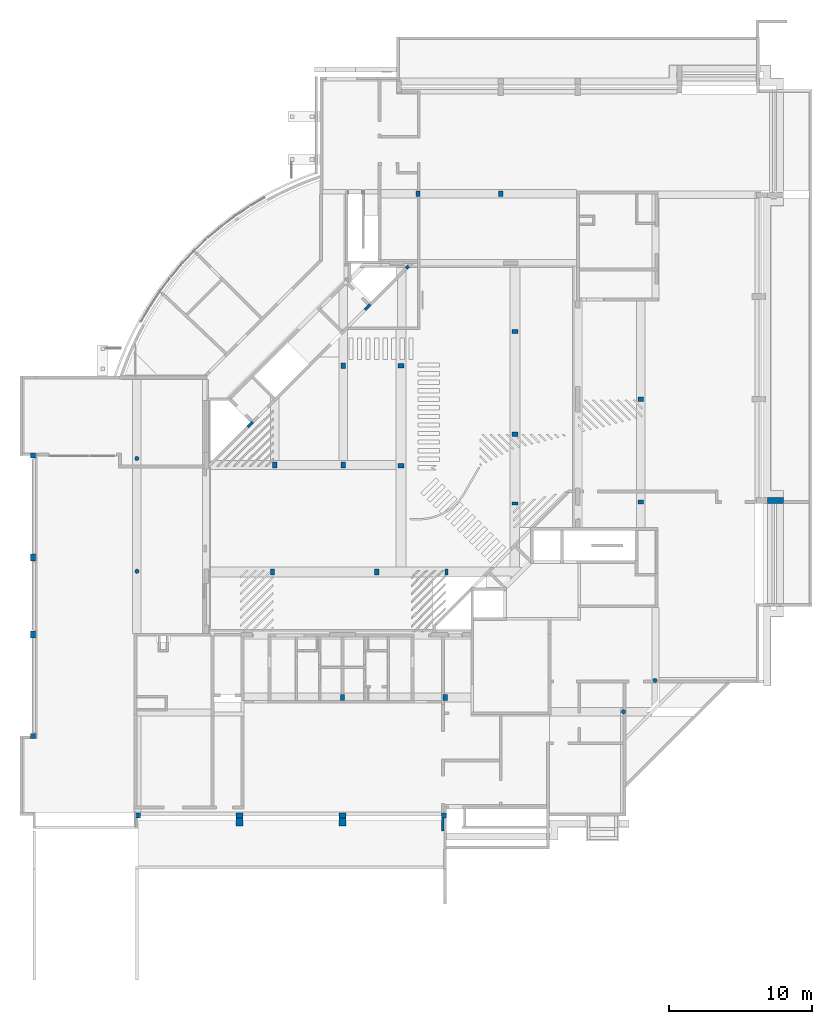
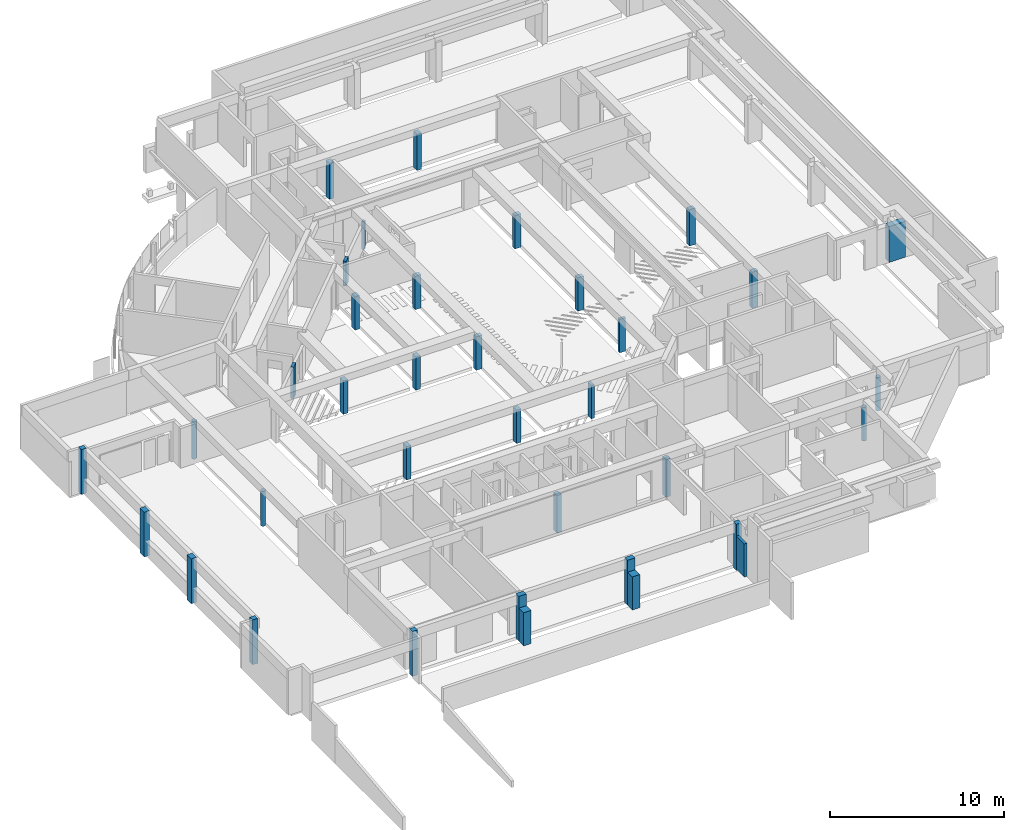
# One storey, part 1 of 22: 36 columns.
"""IFC4X3_ADD2 building model written with IfcOpenShell, lengths in millimetres."""

from ifc_helpers import new_model, si_unit, direction, frame, frame_2d, origin_with_axes, origin_2d_with_axis, place, context, subcontext, project, spatial, rectangle, circle, extrude, source, transform, mapped, material, type_object, type_shapes, element, save


model = new_model("IFC4X3_ADD2")

# Units and contexts
model_context = context("Model", 3, precision=1e-05, world=origin_with_axes(), true_north=direction((0.0, 1.0)))
body_context = subcontext(model_context, "Body", "Model", "MODEL_VIEW")
ifc_project = project(units=[si_unit("LENGTHUNIT", "METRE", prefix="MILLI"), si_unit("AREAUNIT", "SQUARE_METRE"), si_unit("VOLUMEUNIT", "CUBIC_METRE"), si_unit("PLANEANGLEUNIT", "RADIAN"), si_unit("TIMEUNIT", "SECOND"), si_unit("MASSUNIT", "GRAM")], contexts=[model_context])

# Site, building, storey
site_placement = place(None, origin_with_axes())
site = spatial("IfcSite", under=ifc_project, at=site_placement, Name="Site", CompositionType="ELEMENT")
building_placement = place(site_placement, origin_with_axes())
building = spatial("IfcBuilding", under=site, at=building_placement, Name="IFC Building Story")
storey_placement = place(building_placement, frame((0.0, 0.0, -3240.0), z_axis=(0.0, 0.0, 1.0), x_axis=(1.0, 0.0, 0.0)))
storey = spatial("IfcBuildingStorey", under=building, at=storey_placement, Name="K10", Elevation=-3240.0)

# Columns
ifc_material_1 = material(Name="BB_Beton_Bestaand")
column_type_1 = type_object("IfcColumnType", Name="BB_XX_Kolom_ rechthoekig_ center-center_GTL_300 mm x 400 mm", PredefinedType="NOTDEFINED")
shared_shape_1 = source(origin_with_axes(), body_context, "Body", "SweptSolid", [
    extrude(rectangle(XDim=400.0, YDim=300.0, at=frame_2d((0.0, 0.0), x_axis=(0.0, 1.0))), frame((-21900.0, 8200.0, -3340.0), z_axis=(0.0, 0.0, 1.0), x_axis=(1.0, 0.0, 0.0)), (0.0, 0.0, 1.0), 2640.0),
])
type_shapes(column_type_1, [shared_shape_1])
column_1_placement = place(storey_placement, frame((0.0, 0.0, 3240.0), z_axis=(0.0, 0.0, 1.0), x_axis=(1.0, 0.0, 0.0)))
element("IfcColumn", 1, at=column_1_placement, inside=storey, type_object=column_type_1, material=ifc_material_1, Name="BB_XX_Kolom, rechthoekig, center-center_GTL:300 mm x 400 mm", ObjectType="300 mm x 400 mm", PredefinedType="COLUMN", context=body_context, shape_type="MappedRepresentation", body=[
    mapped(shared_shape_1, transform((0.0, 0.0, 0.0))),
])
column_type_2 = type_object("IfcColumnType", Name="BB_XX_Kolom_ rechthoekig_ center-center_GTL_300 mm x 400 mm1", PredefinedType="NOTDEFINED")
shared_shape_2 = source(origin_with_axes(), body_context, "Body", "SweptSolid", [
    extrude(rectangle(XDim=400.0, YDim=300.0, at=frame_2d((0.0, 0.0), x_axis=(0.0, 1.0))), frame((0.0, 0.0, -3340.0), z_axis=(0.0, 0.0, 1.0), x_axis=(1.0, 0.0, 0.0)), (0.0, 0.0, 1.0), 2640.0),
])
type_shapes(column_type_2, [shared_shape_2])
column_2_placement = place(storey_placement, frame((-29100.0, 8200.0, 3240.0), z_axis=(0.0, 0.0, 1.0), x_axis=(1.0, 0.0, 0.0)))
element("IfcColumn", 2, at=column_2_placement, inside=storey, type_object=column_type_2, material=ifc_material_1, Name="BB_XX_Kolom, rechthoekig, center-center_GTL:300 mm x 400 mm", ObjectType="300 mm x 400 mm", PredefinedType="COLUMN", context=body_context, shape_type="MappedRepresentation", body=[
    mapped(shared_shape_2, transform((0.0, 0.0, 0.0))),
])
column_type_3 = type_object("IfcColumnType", Name="BB_XX_Kolom_ rechthoekig_ center-center_GTL_300 mm x 400 mm3", PredefinedType="NOTDEFINED")
shared_shape_3 = source(origin_with_axes(), body_context, "Body", "SweptSolid", [
    extrude(rectangle(XDim=400.0, YDim=300.0, at=frame_2d((0.0, 0.0), x_axis=(0.0, 1.0))), frame((0.0, 0.0, -3240.0), z_axis=(0.0, 0.0, 1.0), x_axis=(1.0, 0.0, 0.0)), (0.0, 0.0, 1.0), 2340.0),
])
type_shapes(column_type_3, [shared_shape_3])
for number, where, z_axis, x_axis in (
    (3, (-34000.0, 17000.0, 3240.0), (0.0, 0.0, 1.0), (1.0, 0.0, 0.0)),
    (4, (-26700.0, 17000.0, 3240.0), (0.0, 0.0, 1.0), (1.0, 0.0, 0.0)),
    (5, (-29050.0, 24500.0, 3240.0), (0.0, 0.0, 1.0), (1.0, 0.0, 0.0)),
    (6, (-33850.0, 24500.0, 3240.0), (0.0, 0.0, 1.0), (1.0, 0.0, 0.0)),
    (7, (-25000.0, 24450.0, 3240.0), (0.0, 0.0, 1.0), (0.0, 1.0, 0.0)),
    (8, (-25000.0, 31450.0, 3240.0), (0.0, 0.0, 1.0), (0.0, 1.0, 0.0)),
    (9, (-17000.0, 26650.0, 3240.0), (0.0, 0.0, 1.0), (0.0, 1.0, 0.0)),
    (10, (-17000.0, 33850.0, 3240.0), (0.0, 0.0, 1.0), (0.0, 1.0, 0.0)),
    (11, (-29050.0, 31450.0, 3240.0), (0.0, 0.0, 1.0), (-1.0, 0.0, 0.0)),
):
    element("IfcColumn", number, at=place(storey_placement, frame(where, z_axis=z_axis, x_axis=x_axis)), inside=storey, type_object=column_type_3, material=ifc_material_1, Name="BB_XX_Kolom, rechthoekig, center-center_GTL:300 mm x 400 mm", ObjectType="300 mm x 400 mm", PredefinedType="COLUMN", context=body_context, shape_type="MappedRepresentation", body=[
        mapped(shared_shape_3, transform((0.0, 0.0, 0.0))),
    ])
column_type_4 = type_object("IfcColumnType", Name="BB_XX_Kolom_ rechthoekig_ center-center_GTL_300 mm x 400 mm5", PredefinedType="NOTDEFINED")
shared_shape_4 = source(origin_with_axes(), body_context, "Body", "SweptSolid", [
    extrude(rectangle(XDim=400.0, YDim=300.0, at=frame_2d((0.0, 0.0), x_axis=(0.0, 1.0))), frame((0.0, 0.0, -3240.0), z_axis=(0.0, 0.0, 1.0), x_axis=(1.0, 0.0, 0.0)), (0.0, 0.0, 1.0), 2540.0),
])
type_shapes(column_type_4, [shared_shape_4])
for number, where, z_axis, x_axis in (
    (12, (-8200.0, 29100.0, 3240.0), (0.0, 0.0, 1.0), (0.0, 1.0, 0.0)),
    (13, (-18000.0, 43500.0, 3240.0), (0.0, 0.0, 1.0), (-1.0, 0.0, 0.0)),
    (14, (-23800.0, 43500.0, 3240.0), (0.0, 0.0, 1.0), (-1.0, 0.0, 0.0)),
    (15, (-8200.0, 21900.0, 3240.0), (0.0, 0.0, 1.0), (0.0, 1.0, 0.0)),
):
    element("IfcColumn", number, at=place(storey_placement, frame(where, z_axis=z_axis, x_axis=x_axis)), inside=storey, type_object=column_type_4, material=ifc_material_1, Name="BB_XX_Kolom, rechthoekig, center-center_GTL:300 mm x 400 mm", ObjectType="300 mm x 400 mm", PredefinedType="COLUMN", context=body_context, shape_type="MappedRepresentation", body=[
        mapped(shared_shape_4, transform((0.0, 0.0, 0.0))),
    ])
column_type_5 = type_object("IfcColumnType", Name="BB_XX_Kolom_ rechthoekig_ center-center_GTL_340 mm x 340 mm7", PredefinedType="NOTDEFINED")
shared_shape_5 = source(origin_with_axes(), body_context, "Body", "SweptSolid", [
    extrude(rectangle(XDim=340.0, YDim=340.000000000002, at=origin_2d_with_axis()), frame((-43425.0, -75.0, -3340.0), z_axis=(0.0, 0.0, 1.0), x_axis=(1.0, 0.0, 0.0)), (0.0, 0.0, 1.0), 3140.0),
])
type_shapes(column_type_5, [shared_shape_5])
column_3_placement = place(storey_placement, frame((0.0, 0.0, 3240.0), z_axis=(0.0, 0.0, 1.0), x_axis=(1.0, 0.0, 0.0)))
element("IfcColumn", 16, at=column_3_placement, inside=storey, type_object=column_type_5, material=ifc_material_1, Name="BB_XX_Kolom, rechthoekig, center-center_GTL:340 mm x 340 mm", ObjectType="340 mm x 340 mm", PredefinedType="COLUMN", context=body_context, shape_type="MappedRepresentation", body=[
    mapped(shared_shape_5, transform((0.0, 0.0, 0.0))),
])
column_type_6 = type_object("IfcColumnType", Name="BB_XX_Kolom_ rechthoekig_ center-center_GTL_490 mm x 340 mm3", PredefinedType="NOTDEFINED")
shared_shape_6 = source(origin_with_axes(), body_context, "Body", "SweptSolid", [
    extrude(rectangle(XDim=490.0, YDim=340.0, at=origin_2d_with_axis()), frame((-36300.0, -75.0, -3340.0), z_axis=(0.0, 0.0, 1.0), x_axis=(1.0, 0.0, 0.0)), (0.0, 0.0, 1.0), 3140.0),
])
type_shapes(column_type_6, [shared_shape_6])
column_4_placement = place(storey_placement, frame((0.0, 0.0, 3240.0), z_axis=(0.0, 0.0, 1.0), x_axis=(1.0, 0.0, 0.0)))
element("IfcColumn", 17, at=column_4_placement, inside=storey, type_object=column_type_6, material=ifc_material_1, Name="BB_XX_Kolom, rechthoekig, center-center_GTL:490 mm x 340 mm", ObjectType="490 mm x 340 mm", PredefinedType="COLUMN", context=body_context, shape_type="MappedRepresentation", body=[
    mapped(shared_shape_6, transform((0.0, 0.0, 0.0))),
])
column_type_7 = type_object("IfcColumnType", Name="BB_XX_Kolom_ rechthoekig_ center-center_GTL_490 mm x 340 mm5", PredefinedType="NOTDEFINED")
shared_shape_7 = source(origin_with_axes(), body_context, "Body", "SweptSolid", [
    extrude(rectangle(XDim=490.0, YDim=340.0, at=origin_2d_with_axis()), frame((-29100.0, -75.0, -3340.0), z_axis=(0.0, 0.0, 1.0), x_axis=(1.0, 0.0, 0.0)), (0.0, 0.0, 1.0), 3140.0),
])
type_shapes(column_type_7, [shared_shape_7])
column_5_placement = place(storey_placement, frame((0.0, 0.0, 3240.0), z_axis=(0.0, 0.0, 1.0), x_axis=(1.0, 0.0, 0.0)))
element("IfcColumn", 18, at=column_5_placement, inside=storey, type_object=column_type_7, material=ifc_material_1, Name="BB_XX_Kolom, rechthoekig, center-center_GTL:490 mm x 340 mm", ObjectType="490 mm x 340 mm", PredefinedType="COLUMN", context=body_context, shape_type="MappedRepresentation", body=[
    mapped(shared_shape_7, transform((0.0, 0.0, 0.0))),
])
column_type_8 = type_object("IfcColumnType", Name="BB_XX_Kolom_ rechthoekig_ center-center_GTL_340 mm x 340 mm9", PredefinedType="NOTDEFINED")
shared_shape_8 = source(origin_with_axes(), body_context, "Body", "SweptSolid", [
    extrude(rectangle(XDim=340.0, YDim=340.000000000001, at=origin_2d_with_axis()), frame((-21975.0, -75.0, -3440.0), z_axis=(0.0, 0.0, 1.0), x_axis=(1.0, 0.0, 0.0)), (0.0, 0.0, 1.0), 3240.0),
])
type_shapes(column_type_8, [shared_shape_8])
column_6_placement = place(storey_placement, frame((0.0, 0.0, 3240.0), z_axis=(0.0, 0.0, 1.0), x_axis=(1.0, 0.0, 0.0)))
element("IfcColumn", 19, at=column_6_placement, inside=storey, type_object=column_type_8, material=ifc_material_1, Name="BB_XX_Kolom, rechthoekig, center-center_GTL:340 mm x 340 mm", ObjectType="340 mm x 340 mm", PredefinedType="COLUMN", context=body_context, shape_type="MappedRepresentation", body=[
    mapped(shared_shape_8, transform((0.0, 0.0, 0.0))),
])
column_type_9 = type_object("IfcColumnType", Name="BB_XX_Kolom_ rechthoekig_ center-center_GTL_340 mm x 340 mm11", PredefinedType="NOTDEFINED")
shared_shape_9 = source(origin_with_axes(), body_context, "Body", "SweptSolid", [
    extrude(rectangle(XDim=340.0, YDim=340.0, at=origin_2d_with_axis()), frame((-50775.0, 25160.0, -3340.0), z_axis=(0.0, 0.0, 1.0), x_axis=(1.0, 0.0, 0.0)), (0.0, 0.0, 1.0), 3140.0),
])
type_shapes(column_type_9, [shared_shape_9])
column_7_placement = place(storey_placement, frame((0.0, 0.0, 3240.0), z_axis=(0.0, 0.0, 1.0), x_axis=(1.0, 0.0, 0.0)))
element("IfcColumn", 20, at=column_7_placement, inside=storey, type_object=column_type_9, material=ifc_material_1, Name="BB_XX_Kolom, rechthoekig, center-center_GTL:340 mm x 340 mm", ObjectType="340 mm x 340 mm", PredefinedType="COLUMN", context=body_context, shape_type="MappedRepresentation", body=[
    mapped(shared_shape_9, transform((0.0, 0.0, 0.0))),
])
column_type_10 = type_object("IfcColumnType", Name="BB_XX_Kolom_ rechthoekig_ center-center_GTL_490 mm x 340 mm7", PredefinedType="NOTDEFINED")
shared_shape_10 = source(origin_with_axes(), body_context, "Body", "SweptSolid", [
    extrude(rectangle(XDim=490.0, YDim=340.0, at=frame_2d((0.0, 0.0), x_axis=(0.0, 1.0))), frame((-50775.00000000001, 12630.0, -3340.0), z_axis=(0.0, 0.0, 1.0), x_axis=(1.0, 0.0, 0.0)), (0.0, 0.0, 1.0), 3140.0),
])
type_shapes(column_type_10, [shared_shape_10])
column_8_placement = place(storey_placement, frame((0.0, 0.0, 3240.0), z_axis=(0.0, 0.0, 1.0), x_axis=(1.0, 0.0, 0.0)))
element("IfcColumn", 21, at=column_8_placement, inside=storey, type_object=column_type_10, material=ifc_material_1, Name="BB_XX_Kolom, rechthoekig, center-center_GTL:490 mm x 340 mm", ObjectType="490 mm x 340 mm", PredefinedType="COLUMN", context=body_context, shape_type="MappedRepresentation", body=[
    mapped(shared_shape_10, transform((0.0, 0.0, 0.0))),
])
column_type_11 = type_object("IfcColumnType", Name="BB_XX_Kolom_ rechthoekig_ center-center_GTL_340 mm x 340 mm13", PredefinedType="NOTDEFINED")
shared_shape_11 = source(origin_with_axes(), body_context, "Body", "SweptSolid", [
    extrude(rectangle(XDim=340.0, YDim=339.9999999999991, at=origin_2d_with_axis()), frame((-50775.0, 5510.0, -3340.0), z_axis=(0.0, 0.0, 1.0), x_axis=(1.0, 0.0, 0.0)), (0.0, 0.0, 1.0), 3140.0),
])
type_shapes(column_type_11, [shared_shape_11])
column_9_placement = place(storey_placement, frame((0.0, 0.0, 3240.0), z_axis=(0.0, 0.0, 1.0), x_axis=(1.0, 0.0, 0.0)))
element("IfcColumn", 22, at=column_9_placement, inside=storey, type_object=column_type_11, material=ifc_material_1, Name="BB_XX_Kolom, rechthoekig, center-center_GTL:340 mm x 340 mm", ObjectType="340 mm x 340 mm", PredefinedType="COLUMN", context=body_context, shape_type="MappedRepresentation", body=[
    mapped(shared_shape_11, transform((0.0, 0.0, 0.0))),
])
column_type_12 = type_object("IfcColumnType", Name="BB_XX_Kolom_ rechthoekig_ center-center_GTL_490 mm x 340 mm9", PredefinedType="NOTDEFINED")
shared_shape_12 = source(origin_with_axes(), body_context, "Body", "SweptSolid", [
    extrude(rectangle(XDim=489.9999999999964, YDim=340.0, at=frame_2d((0.0, 0.0), x_axis=(0.0, 1.0))), frame((-50775.00000000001, 18030.0, -3340.0), z_axis=(0.0, 0.0, 1.0), x_axis=(1.0, 0.0, 0.0)), (0.0, 0.0, 1.0), 3140.0),
])
type_shapes(column_type_12, [shared_shape_12])
column_10_placement = place(storey_placement, frame((0.0, 0.0, 3240.0), z_axis=(0.0, 0.0, 1.0), x_axis=(1.0, 0.0, 0.0)))
element("IfcColumn", 23, at=column_10_placement, inside=storey, type_object=column_type_12, material=ifc_material_1, Name="BB_XX_Kolom, rechthoekig, center-center_GTL:490 mm x 340 mm", ObjectType="490 mm x 340 mm", PredefinedType="COLUMN", context=body_context, shape_type="MappedRepresentation", body=[
    mapped(shared_shape_12, transform((0.0, 0.0, 0.0))),
])
column_type_13 = type_object("IfcColumnType", Name="BB_XX_Kolom_ rechthoekig_ center-center_GTL_490 mm x 550 mm3", PredefinedType="NOTDEFINED")
shared_shape_13 = source(origin_with_axes(), body_context, "Body", "SweptSolid", [
    extrude(rectangle(XDim=550.0, YDim=490.0, at=frame_2d((0.0, 0.0), x_axis=(0.0, 1.0))), frame((-36299.996598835, -520.0, -3340.0), z_axis=(0.0, 0.0, 1.0), x_axis=(1.0, 0.0, 0.0)), (0.0, 0.0, 1.0), 2320.0),
])
type_shapes(column_type_13, [shared_shape_13])
column_11_placement = place(storey_placement, frame((0.0, 0.0, 3240.0), z_axis=(0.0, 0.0, 1.0), x_axis=(1.0, 0.0, 0.0)))
element("IfcColumn", 24, at=column_11_placement, inside=storey, type_object=column_type_13, material=ifc_material_1, Name="BB_XX_Kolom, rechthoekig, center-center_GTL:490 mm x 550 mm", ObjectType="490 mm x 550 mm 2", PredefinedType="COLUMN", context=body_context, shape_type="MappedRepresentation", body=[
    mapped(shared_shape_13, transform((0.0, 0.0, 0.0))),
])
column_type_14 = type_object("IfcColumnType", Name="BB_XX_Kolom_ rechthoekig_ center-center_GTL_490 mm x 550 mm5", PredefinedType="NOTDEFINED")
shared_shape_14 = source(origin_with_axes(), body_context, "Body", "SweptSolid", [
    extrude(rectangle(XDim=549.999999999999, YDim=490.0, at=frame_2d((0.0, 0.0), x_axis=(0.0, 1.0))), frame((-29100.0017819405, -520.0, -3340.0), z_axis=(0.0, 0.0, 1.0), x_axis=(1.0, 0.0, 0.0)), (0.0, 0.0, 1.0), 2320.0),
])
type_shapes(column_type_14, [shared_shape_14])
column_12_placement = place(storey_placement, frame((0.0, 0.0, 3240.0), z_axis=(0.0, 0.0, 1.0), x_axis=(1.0, 0.0, 0.0)))
element("IfcColumn", 25, at=column_12_placement, inside=storey, type_object=column_type_14, material=ifc_material_1, Name="BB_XX_Kolom, rechthoekig, center-center_GTL:490 mm x 550 mm", ObjectType="490 mm x 550 mm 2", PredefinedType="COLUMN", context=body_context, shape_type="MappedRepresentation", body=[
    mapped(shared_shape_14, transform((0.0, 0.0, 0.0))),
])
ifc_material_2 = material(Name="<Unnamed>")
column_type_15 = type_object("IfcColumnType", Name="BB_XX_Kolom_ rechthoekig_ center-center_GTL_200 mm x 400 mm", PredefinedType="NOTDEFINED")
shared_shape_15 = source(origin_with_axes(), body_context, "Body", "SweptSolid", [
    extrude(rectangle(XDim=400.0, YDim=200.0, at=frame_2d((0.0, 0.0), x_axis=(0.0, 1.0))), frame((0.0, 0.0, -3240.0), z_axis=(0.0, 0.0, 1.0), x_axis=(1.0, 0.0, 0.0)), (0.0, 0.0, 1.0), 2340.0),
])
type_shapes(column_type_15, [shared_shape_15])
column_13_placement = place(storey_placement, frame((-21800.0, 17000.0, 3240.0), z_axis=(0.0, 0.0, 1.0), x_axis=(1.0, 0.0, 0.0)))
element("IfcColumn", 26, at=column_13_placement, inside=storey, type_object=column_type_15, material=ifc_material_2, Name="BB_XX_Kolom, rechthoekig, center-center_GTL:200 mm x 400 mm", ObjectType="200 mm x 400 mm", PredefinedType="COLUMN", context=body_context, shape_type="MappedRepresentation", body=[
    mapped(shared_shape_15, transform((0.0, 0.0, 0.0))),
])
column_type_16 = type_object("IfcColumnType", Name="BB_XX_Kolom_ rechthoekig_ center-center_GTL_200 mm x 400 mm1", PredefinedType="NOTDEFINED")
shared_shape_16 = source(origin_with_axes(), body_context, "Body", "SweptSolid", [
    extrude(rectangle(XDim=400.0, YDim=200.0, at=origin_2d_with_axis()), frame((-17000.0, 21800.0, -3240.0), z_axis=(0.0, 0.0, 1.0), x_axis=(1.0, 0.0, 0.0)), (0.0, 0.0, 1.0), 2340.0),
])
type_shapes(column_type_16, [shared_shape_16])
column_14_placement = place(storey_placement, frame((0.0, 0.0, 3240.0), z_axis=(0.0, 0.0, 1.0), x_axis=(1.0, 0.0, 0.0)))
element("IfcColumn", 27, at=column_14_placement, inside=storey, type_object=column_type_16, material=ifc_material_2, Name="BB_XX_Kolom, rechthoekig, center-center_GTL:200 mm x 400 mm", ObjectType="200 mm x 400 mm", PredefinedType="COLUMN", context=body_context, shape_type="MappedRepresentation", body=[
    mapped(shared_shape_16, transform((0.0, 0.0, 0.0))),
])
ifc_material_3 = material(Name="Concrete, C30/37")
column_type_17 = type_object("IfcColumnType", Name="BB_XX_Kolom_ rechthoekig_ center-center_GTL_170 mm x 905 mm", PredefinedType="NOTDEFINED")
shared_shape_17 = source(origin_with_axes(), body_context, "Body", "SweptSolid", [
    extrude(rectangle(XDim=905.0, YDim=170.0, at=frame_2d((0.0, 0.0), x_axis=(0.0, 1.0))), frame((-22059.99903535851, -697.500000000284, -3340.0), z_axis=(0.0, 0.0, 1.0), x_axis=(1.0, 0.0, 0.0)), (0.0, 0.0, 1.0), 2320.0),
])
type_shapes(column_type_17, [shared_shape_17])
column_15_placement = place(storey_placement, frame((0.0, 0.0, 3240.0), z_axis=(0.0, 0.0, 1.0), x_axis=(1.0, 0.0, 0.0)))
element("IfcColumn", 28, at=column_15_placement, inside=storey, type_object=column_type_17, material=ifc_material_3, Name="BB_XX_Kolom, rechthoekig, center-center_GTL:170 mm x 905 mm", ObjectType="170 mm x 905 mm", PredefinedType="COLUMN", context=body_context, shape_type="MappedRepresentation", body=[
    mapped(shared_shape_17, transform((0.0, 0.0, 0.0))),
])
column_type_18 = type_object("IfcColumnType", Name="BB_XX_Kolom_ rechthoekig_ center-center_GTL_400 mm x 1090 mm", PredefinedType="NOTDEFINED")
shared_shape_18 = source(origin_with_axes(), body_context, "Body", "SweptSolid", [
    extrude(rectangle(XDim=1090.0, YDim=399.9999999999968, at=frame_2d((0.0, 0.0), x_axis=(0.9999999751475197, 0.0002229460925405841))), frame((1250.0445756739, 22005.121510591, -3240.0), z_axis=(0.0, 0.0, 1.0), x_axis=(1.0, 0.0, 0.0)), (0.0, 0.0, 1.0), 2511.43158138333),
])
type_shapes(column_type_18, [shared_shape_18])
column_16_placement = place(storey_placement, frame((0.0, 0.0, 3240.0), z_axis=(0.0, 0.0, 1.0), x_axis=(1.0, 0.0, 0.0)))
element("IfcColumn", 29, at=column_16_placement, inside=storey, type_object=column_type_18, material=ifc_material_2, Name="BB_XX_Kolom, rechthoekig, center-center_GTL:400 mm x 1090 mm", ObjectType="400 mm x 1090 mm", PredefinedType="COLUMN", context=body_context, shape_type="MappedRepresentation", body=[
    mapped(shared_shape_18, transform((0.0, 0.0, 0.0))),
])
column_type_19 = type_object("IfcColumnType", Name="BB_XX_Kolom_ rechthoekig_ center-center_GTL_190 mm x 500 mm1", PredefinedType="NOTDEFINED")
shared_shape_19 = source(origin_with_axes(), body_context, "Body", "SweptSolid", [
    extrude(rectangle(XDim=500.0000000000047, YDim=189.9999999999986, at=frame_2d((0.0, 0.0), x_axis=(0.7071067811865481, 0.7071067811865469))), frame((-35559.1307724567, 27335.484910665, -3240.0), z_axis=(0.0, 0.0, 1.0), x_axis=(1.0, 0.0, 0.0)), (0.0, 0.0, 1.0), 2190.0),
])
type_shapes(column_type_19, [shared_shape_19])
column_17_placement = place(storey_placement, frame((0.0, 0.0, 3240.0), z_axis=(0.0, 0.0, 1.0), x_axis=(1.0, 0.0, 0.0)))
element("IfcColumn", 30, at=column_17_placement, inside=storey, type_object=column_type_19, material=ifc_material_3, Name="BB_XX_Kolom, rechthoekig, center-center_GTL:190 mm x 500 mm", ObjectType="190 mm x 500 mm", PredefinedType="COLUMN", context=body_context, shape_type="MappedRepresentation", body=[
    mapped(shared_shape_19, transform((0.0, 0.0, 0.0))),
])
column_type_20 = type_object("IfcColumnType", Name="BB_XX_Kolom_ rechthoekig_ center-center_GTL_190 mm x 500 mm3", PredefinedType="NOTDEFINED")
shared_shape_20 = source(origin_with_axes(), body_context, "Body", "SweptSolid", [
    extrude(rectangle(XDim=500.0000000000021, YDim=190.0000000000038, at=frame_2d((0.0, 0.0), x_axis=(0.7071067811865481, 0.7071067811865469))), frame((-27335.4819089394, 35559.1337741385, -3240.0), z_axis=(0.0, 0.0, 1.0), x_axis=(1.0, 0.0, 0.0)), (0.0, 0.0, 1.0), 1740.0),
])
type_shapes(column_type_20, [shared_shape_20])
column_18_placement = place(storey_placement, frame((0.0, 0.0, 3240.0), z_axis=(0.0, 0.0, 1.0), x_axis=(1.0, 0.0, 0.0)))
element("IfcColumn", 31, at=column_18_placement, inside=storey, type_object=column_type_20, material=ifc_material_3, Name="BB_XX_Kolom, rechthoekig, center-center_GTL:190 mm x 500 mm", ObjectType="190 mm x 500 mm", PredefinedType="COLUMN", context=body_context, shape_type="MappedRepresentation", body=[
    mapped(shared_shape_20, transform((0.0, 0.0, 0.0))),
])
column_type_21 = type_object("IfcColumnType", Name="BB_XX_Kolom_ rechthoekig_ center-center_GTL_190 mm x 200 mm1", PredefinedType="NOTDEFINED")
shared_shape_21 = source(origin_with_axes(), body_context, "Body", "SweptSolid", [
    extrude(rectangle(XDim=200.0000000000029, YDim=190.0000000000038, at=frame_2d((0.0, 0.0), x_axis=(0.7071067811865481, 0.7071067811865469))), frame((-24540.06754798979, 38354.5481350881, -3450.0), z_axis=(0.0, 0.0, 1.0), x_axis=(1.0, 0.0, 0.0)), (0.0, 0.0, 1.0), 1950.0),
])
type_shapes(column_type_21, [shared_shape_21])
column_19_placement = place(storey_placement, frame((0.0, 0.0, 3240.0), z_axis=(0.0, 0.0, 1.0), x_axis=(1.0, 0.0, 0.0)))
element("IfcColumn", 32, at=column_19_placement, inside=storey, type_object=column_type_21, material=ifc_material_3, Name="BB_XX_Kolom, rechthoekig, center-center_GTL:190 mm x 200 mm", ObjectType="190 mm x 200 mm", PredefinedType="COLUMN", context=body_context, shape_type="MappedRepresentation", body=[
    mapped(shared_shape_21, transform((0.0, 0.0, 0.0))),
])
column_type_22 = type_object("IfcColumnType", Name="BB_XX_Kolom_ rond_GMO_300 x 2340 mm", PredefinedType="NOTDEFINED")
shared_shape_22 = source(origin_with_axes(), body_context, "Body", "SweptSolid", [
    extrude(circle(Radius=150.0, at=frame_2d((0.0, 0.0), x_axis=(-1.0, 0.0))), frame((-9400.0, 7200.0, -3240.0), z_axis=(0.0, 0.0, 1.0), x_axis=(1.0, 0.0, 0.0)), (0.0, 0.0, 1.0), 2340.0),
])
type_shapes(column_type_22, [shared_shape_22])
column_20_placement = place(storey_placement, frame((0.0, 0.0, 3240.0), z_axis=(0.0, 0.0, 1.0), x_axis=(1.0, 0.0, 0.0)))
element("IfcColumn", 33, at=column_20_placement, inside=storey, type_object=column_type_22, material=ifc_material_2, Name="BB_XX_Kolom, rond_GMO:300 x 2340 mm", ObjectType="300 x 2100 mm", PredefinedType="COLUMN", context=body_context, shape_type="MappedRepresentation", body=[
    mapped(shared_shape_22, transform((0.0, 0.0, 0.0))),
])
column_type_23 = type_object("IfcColumnType", Name="BB_XX_Kolom_ rond_GMO_300 x 2340 mm1", PredefinedType="NOTDEFINED")
shared_shape_23 = source(origin_with_axes(), body_context, "Body", "SweptSolid", [
    extrude(circle(Radius=149.999999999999, at=frame_2d((0.0, 0.0), x_axis=(-1.0, 0.0))), frame((-7200.0, 9399.91664350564, -3240.0), z_axis=(0.0, 0.0, 1.0), x_axis=(1.0, 0.0, 0.0)), (0.0, 0.0, 1.0), 2340.0),
])
type_shapes(column_type_23, [shared_shape_23])
column_21_placement = place(storey_placement, frame((0.0, 0.0, 3240.0), z_axis=(0.0, 0.0, 1.0), x_axis=(1.0, 0.0, 0.0)))
element("IfcColumn", 34, at=column_21_placement, inside=storey, type_object=column_type_23, material=ifc_material_2, Name="BB_XX_Kolom, rond_GMO:300 x 2340 mm", ObjectType="300 x 2100 mm", PredefinedType="COLUMN", context=body_context, shape_type="MappedRepresentation", body=[
    mapped(shared_shape_23, transform((0.0, 0.0, 0.0))),
])
column_type_24 = type_object("IfcColumnType", Name="BB_XX_Kolom_ rond_GMO_300 x 2440 mm", PredefinedType="NOTDEFINED")
shared_shape_24 = source(origin_with_axes(), body_context, "Body", "SweptSolid", [
    extrude(circle(Radius=150.0, at=frame_2d((0.0, 0.0), x_axis=(-1.0, 0.0))), origin_with_axes(), (0.0, 0.0, 1.0), 2440.0),
])
type_shapes(column_type_24, [shared_shape_24])
column_22_placement = place(storey_placement, frame((-43500.0, 17049.8382973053, 0.0), z_axis=(0.0, 0.0, 1.0), x_axis=(1.0, 0.0, 0.0)))
element("IfcColumn", 35, at=column_22_placement, inside=storey, type_object=column_type_24, material=ifc_material_2, Name="BB_XX_Kolom, rond_GMO:300 x 2440 mm", ObjectType="300 x 2100 mm", PredefinedType="COLUMN", context=body_context, shape_type="MappedRepresentation", body=[
    mapped(shared_shape_24, transform((0.0, 0.0, 0.0))),
])
column_type_25 = type_object("IfcColumnType", Name="BB_XX_Kolom_ rond_GMO_300 x 2640 mm", PredefinedType="NOTDEFINED")
shared_shape_25 = source(origin_with_axes(), body_context, "Body", "SweptSolid", [
    extrude(circle(Radius=150.0, at=frame_2d((0.0, 0.0), x_axis=(-1.0, 0.0))), origin_with_axes(), (0.0, 0.0, 1.0), 2640.0),
])
type_shapes(column_type_25, [shared_shape_25])
column_23_placement = place(storey_placement, frame((-43500.0, 24949.8382973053, -100.0), z_axis=(0.0, 0.0, 1.0), x_axis=(1.0, 0.0, 0.0)))
element("IfcColumn", 36, at=column_23_placement, inside=storey, type_object=column_type_25, material=ifc_material_2, Name="BB_XX_Kolom, rond_GMO:300 x 2640 mm", ObjectType="300 x 2100 mm", PredefinedType="COLUMN", context=body_context, shape_type="MappedRepresentation", body=[
    mapped(shared_shape_25, transform((0.0, 0.0, 0.0))),
])

save(model, "model.ifc")
